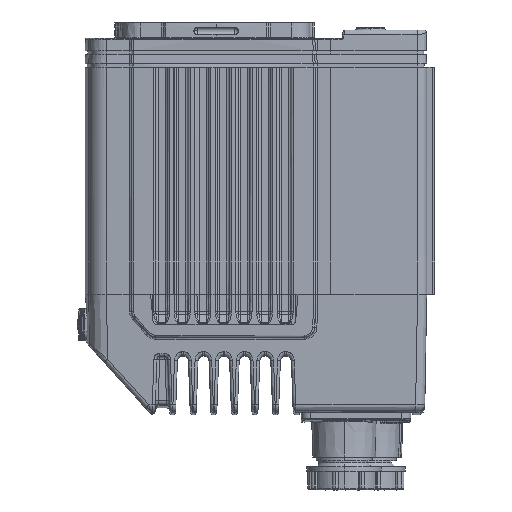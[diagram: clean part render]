
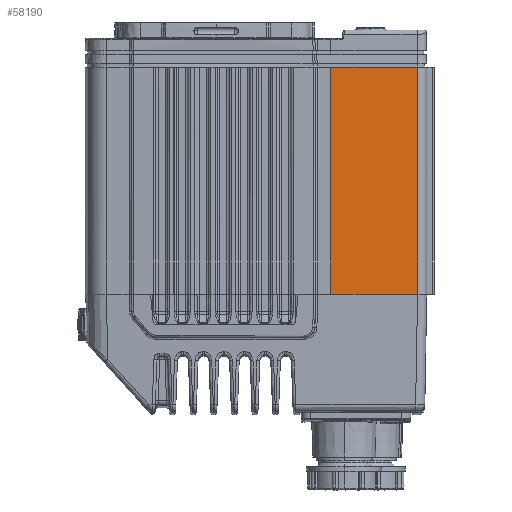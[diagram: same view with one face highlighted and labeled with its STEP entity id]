
A CAD part, left-side view. The second image highlights one B-rep face of the part: STEP entity #58190.
In plain terms, the highlighted cylindrical face has radius 1000 mm (diameter 2000 mm), a partial arc.
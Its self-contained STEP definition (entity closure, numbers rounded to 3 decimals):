
#3890 = VECTOR ( 'NONE', #43681, 1000. ) ;
#7126 = VERTEX_POINT ( 'NONE', #94908 ) ;
#8561 = B_SPLINE_CURVE_WITH_KNOTS ( 'NONE', 3,
 ( #129853, #155651, #80708, #117806 ),
 .UNSPECIFIED., .F., .F.,
 ( 4, 4 ),
 ( 0., 0.867 ),
 .UNSPECIFIED. ) ;
#8851 = EDGE_LOOP ( 'NONE', ( #152580, #84459, #127117, #69429 ) ) ;
#11112 = CARTESIAN_POINT ( 'NONE',  ( -29.578, -43.037, -20.817 ) ) ;
#16843 = FACE_OUTER_BOUND ( 'NONE', #8851, .T. ) ;
#17506 = B_SPLINE_CURVE_WITH_KNOTS ( 'NONE', 3,
 ( #121568, #23162, #11112, #159425 ),
 .UNSPECIFIED., .F., .F.,
 ( 4, 4 ),
 ( 0., 1. ),
 .UNSPECIFIED. ) ;
#22341 = VERTEX_POINT ( 'NONE', #32641 ) ;
#23162 = CARTESIAN_POINT ( 'NONE',  ( -29.578, -43.038, -36.983 ) ) ;
#29133 = CARTESIAN_POINT ( 'NONE',  ( 970.25, -24.5, -4.65 ) ) ;
#32641 = CARTESIAN_POINT ( 'NONE',  ( -29.75, -24.5, -53.15 ) ) ;
#33173 = CARTESIAN_POINT ( 'NONE',  ( -29.75, -30.68, -4.65 ) ) ;
#34293 = EDGE_CURVE ( 'NONE', #7126, #58892, #75063, .T. ) ;
#35903 = EDGE_CURVE ( 'NONE', #37355, #7126, #17506, .T. ) ;
#37355 = VERTEX_POINT ( 'NONE', #48140 ) ;
#42117 = EDGE_CURVE ( 'NONE', #58892, #22341, #103635, .T. ) ;
#43681 = DIRECTION ( 'NONE',  ( 0., 0., -1. ) ) ;
#45674 = CARTESIAN_POINT ( 'NONE',  ( -29.75, -24.5, -4.65 ) ) ;
#48140 = CARTESIAN_POINT ( 'NONE',  ( -29.578, -43.038, -53.15 ) ) ;
#58190 = ADVANCED_FACE ( 'NONE', ( #16843 ), #87322, .T. ) ;
#58892 = VERTEX_POINT ( 'NONE', #60742 ) ;
#60742 = CARTESIAN_POINT ( 'NONE',  ( -29.75, -24.5, -4.65 ) ) ;
#69429 = ORIENTED_EDGE ( 'NONE', *, *, #35903, .T. ) ;
#75063 = B_SPLINE_CURVE_WITH_KNOTS ( 'NONE', 3,
 ( #108058, #85107, #33173, #45674 ),
 .UNSPECIFIED., .F., .F.,
 ( 4, 4 ),
 ( 0., 0.866 ),
 .UNSPECIFIED. ) ;
#80708 = CARTESIAN_POINT ( 'NONE',  ( -29.751, -30.68, -53.15 ) ) ;
#84459 = ORIENTED_EDGE ( 'NONE', *, *, #42117, .T. ) ;
#85107 = CARTESIAN_POINT ( 'NONE',  ( -29.693, -36.859, -4.65 ) ) ;
#87322 = CYLINDRICAL_SURFACE ( 'NONE', #154551, 1000. ) ;
#94908 = CARTESIAN_POINT ( 'NONE',  ( -29.578, -43.037, -4.65 ) ) ;
#103635 = LINE ( 'NONE', #141160, #3890 ) ;
#104585 = DIRECTION ( 'NONE',  ( 0., 0., -1. ) ) ;
#108058 = CARTESIAN_POINT ( 'NONE',  ( -29.578, -43.037, -4.65 ) ) ;
#117126 = DIRECTION ( 'NONE',  ( -1., 0., 0. ) ) ;
#117806 = CARTESIAN_POINT ( 'NONE',  ( -29.75, -24.5, -53.15 ) ) ;
#121568 = CARTESIAN_POINT ( 'NONE',  ( -29.578, -43.038, -53.15 ) ) ;
#127117 = ORIENTED_EDGE ( 'NONE', *, *, #153864, .F. ) ;
#129853 = CARTESIAN_POINT ( 'NONE',  ( -29.578, -43.038, -53.15 ) ) ;
#141160 = CARTESIAN_POINT ( 'NONE',  ( -29.75, -24.5, -4.65 ) ) ;
#152580 = ORIENTED_EDGE ( 'NONE', *, *, #34293, .T. ) ;
#153864 = EDGE_CURVE ( 'NONE', #37355, #22341, #8561, .T. ) ;
#154551 = AXIS2_PLACEMENT_3D ( 'NONE', #29133, #104585, #117126 ) ;
#155651 = CARTESIAN_POINT ( 'NONE',  ( -29.693, -36.859, -53.15 ) ) ;
#159425 = CARTESIAN_POINT ( 'NONE',  ( -29.578, -43.037, -4.65 ) ) ;
